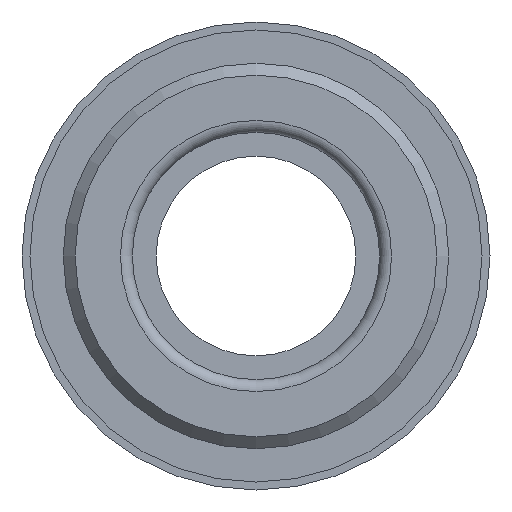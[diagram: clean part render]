
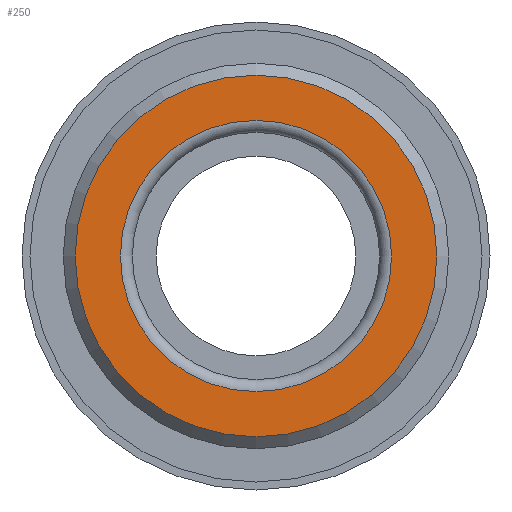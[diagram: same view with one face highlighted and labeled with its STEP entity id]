
A CAD part, left-side view. The second image highlights one B-rep face of the part: STEP entity #250.
In plain terms, the highlighted planar face has unit normal (-1, 0, 0).
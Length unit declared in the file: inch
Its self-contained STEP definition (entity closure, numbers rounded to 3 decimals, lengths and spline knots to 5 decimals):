
#33=ORIENTED_EDGE('',*,*,#79,.T.);
#34=ORIENTED_EDGE('',*,*,#80,.F.);
#79=EDGE_CURVE('',#102,#102,#125,.T.);
#80=EDGE_CURVE('',#103,#103,#126,.T.);
#102=VERTEX_POINT('',#429);
#103=VERTEX_POINT('',#431);
#125=CIRCLE('',#287,0.201);
#126=CIRCLE('',#288,0.268);
#148=EDGE_LOOP('',(#33));
#149=EDGE_LOOP('',(#34));
#194=FACE_BOUND('',#148,.T.);
#195=FACE_BOUND('',#149,.T.);
#240=PLANE('',#286);
#250=ADVANCED_FACE('',(#194,#195),#240,.T.);
#286=AXIS2_PLACEMENT_3D('',#427,#334,#335);
#287=AXIS2_PLACEMENT_3D('',#428,#336,#337);
#288=AXIS2_PLACEMENT_3D('',#430,#338,#339);
#334=DIRECTION('',(-1.,0.,0.));
#335=DIRECTION('',(0.,0.,1.));
#336=DIRECTION('',(1.,0.,0.));
#337=DIRECTION('',(0.,0.,-1.));
#338=DIRECTION('',(1.,0.,0.));
#339=DIRECTION('',(0.,0.,-1.));
#427=CARTESIAN_POINT('',(-0.0177,0.268,0.));
#428=CARTESIAN_POINT('',(-0.0177,0.,0.));
#429=CARTESIAN_POINT('',(-0.0177,0.,-0.201));
#430=CARTESIAN_POINT('',(-0.0177,0.,0.));
#431=CARTESIAN_POINT('',(-0.0177,0.,-0.268));
